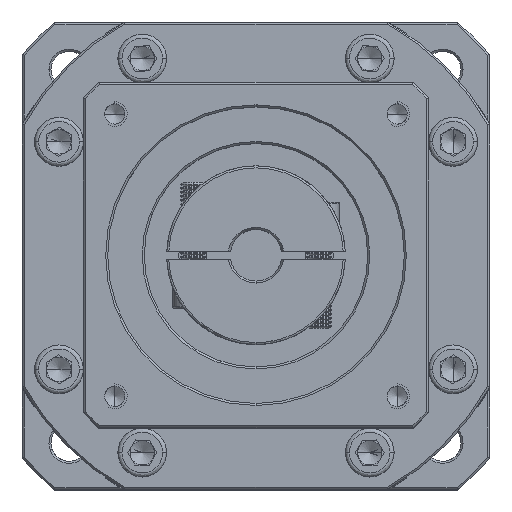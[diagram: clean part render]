
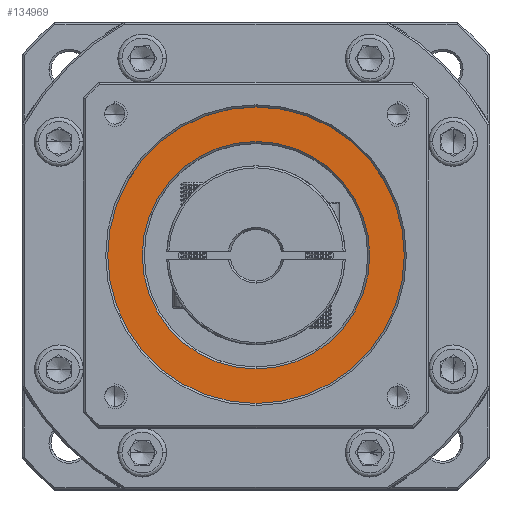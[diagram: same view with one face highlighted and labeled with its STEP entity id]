
A CAD part, top view. The second image highlights one B-rep face of the part: STEP entity #134969.
In plain terms, the highlighted planar face has unit normal (0, 0, 1).
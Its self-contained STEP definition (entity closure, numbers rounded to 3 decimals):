
#3183 = EDGE_LOOP ( 'NONE', ( #63899, #60948 ) ) ;
#3263 = CARTESIAN_POINT ( 'NONE',  ( -45.676, -8.897, 265.002 ) ) ;
#5871 = ORIENTED_EDGE ( 'NONE', *, *, #75667, .T. ) ;
#10756 = DIRECTION ( 'NONE',  ( 0., -1., 0. ) ) ;
#22098 = DIRECTION ( 'NONE',  ( 0., -1., 0. ) ) ;
#22755 = CIRCLE ( 'NONE', #50555, 36.5 ) ;
#29223 = EDGE_LOOP ( 'NONE', ( #5871, #73370 ) ) ;
#46581 = DIRECTION ( 'NONE',  ( 0., 0., -1. ) ) ;
#47819 = AXIS2_PLACEMENT_3D ( 'NONE', #3263, #46581, #120971 ) ;
#47920 = VERTEX_POINT ( 'NONE', #136865 ) ;
#49695 = FACE_BOUND ( 'NONE', #29223, .T. ) ;
#50555 = AXIS2_PLACEMENT_3D ( 'NONE', #99765, #100216, #58377 ) ;
#53756 = CARTESIAN_POINT ( 'NONE',  ( -45.676, -8.897, 265.002 ) ) ;
#56210 = CIRCLE ( 'NONE', #75906, 36.5 ) ;
#57890 = EDGE_CURVE ( 'NONE', #114568, #110215, #22755, .T. ) ;
#58377 = DIRECTION ( 'NONE',  ( 0., -1., 0. ) ) ;
#60948 = ORIENTED_EDGE ( 'NONE', *, *, #57890, .T. ) ;
#61756 = CIRCLE ( 'NONE', #90895, 28. ) ;
#63899 = ORIENTED_EDGE ( 'NONE', *, *, #106320, .T. ) ;
#73370 = ORIENTED_EDGE ( 'NONE', *, *, #112870, .T. ) ;
#74665 = CARTESIAN_POINT ( 'NONE',  ( -45.676, -45.397, 265.002 ) ) ;
#75227 = DIRECTION ( 'NONE',  ( 0., 0., 1. ) ) ;
#75667 = EDGE_CURVE ( 'NONE', #47920, #116129, #61756, .T. ) ;
#75906 = AXIS2_PLACEMENT_3D ( 'NONE', #85237, #84291, #10756 ) ;
#76927 = DIRECTION ( 'NONE',  ( 0., 0., -1. ) ) ;
#78068 = FACE_OUTER_BOUND ( 'NONE', #3183, .T. ) ;
#82480 = CIRCLE ( 'NONE', #47819, 28. ) ;
#84291 = DIRECTION ( 'NONE',  ( 0., 0., 1. ) ) ;
#85237 = CARTESIAN_POINT ( 'NONE',  ( -45.676, -8.897, 265.002 ) ) ;
#88551 = CARTESIAN_POINT ( 'NONE',  ( -45.676, -8.897, 265.002 ) ) ;
#90895 = AXIS2_PLACEMENT_3D ( 'NONE', #88551, #76927, #97804 ) ;
#97804 = DIRECTION ( 'NONE',  ( 0., -1., 0. ) ) ;
#99765 = CARTESIAN_POINT ( 'NONE',  ( -45.676, -8.897, 265.002 ) ) ;
#100216 = DIRECTION ( 'NONE',  ( 0., 0., 1. ) ) ;
#106320 = EDGE_CURVE ( 'NONE', #110215, #114568, #56210, .T. ) ;
#110215 = VERTEX_POINT ( 'NONE', #74665 ) ;
#112870 = EDGE_CURVE ( 'NONE', #116129, #47920, #82480, .T. ) ;
#114568 = VERTEX_POINT ( 'NONE', #121968 ) ;
#116129 = VERTEX_POINT ( 'NONE', #121003 ) ;
#116898 = PLANE ( 'NONE',  #123381 ) ;
#120971 = DIRECTION ( 'NONE',  ( 0., -1., 0. ) ) ;
#121003 = CARTESIAN_POINT ( 'NONE',  ( -45.676, 19.103, 265.002 ) ) ;
#121968 = CARTESIAN_POINT ( 'NONE',  ( -45.676, 27.603, 265.002 ) ) ;
#123381 = AXIS2_PLACEMENT_3D ( 'NONE', #53756, #75227, #22098 ) ;
#134969 = ADVANCED_FACE ( 'NONE', ( #78068, #49695 ), #116898, .T. ) ;
#136865 = CARTESIAN_POINT ( 'NONE',  ( -45.676, -36.897, 265.002 ) ) ;
